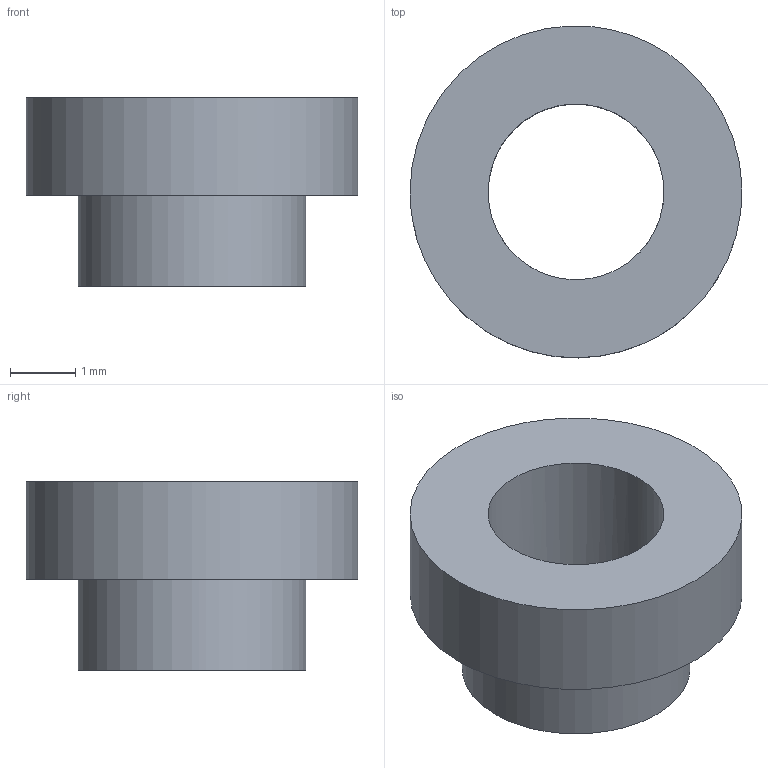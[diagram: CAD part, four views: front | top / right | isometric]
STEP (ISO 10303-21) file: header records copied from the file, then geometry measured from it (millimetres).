
FILE_DESCRIPTION(('FreeCAD Model'),'2;1');
FILE_NAME('Open CASCADE Shape Model','2026-03-20T17:23:02',('Author'),( ''),'Open CASCADE STEP processor 7.8','FreeCAD','Unknown');
FILE_SCHEMA(('AP242_MANAGED_MODEL_BASED_3D_ENGINEERING_MIM_LF. {1 0 10303 442 1 1 4 }'));
Length unit declared in the file: millimetre
Products named in the file (1): 1_transformed
Bounding box: 5.1 x 5.1 x 2.9 mm (x, y, z)
Volume: 27.8 mm3; surface area: 93.6 mm2
Topology: 1 solids, 1 shells, 6 faces, 10 edges, 7 vertices
Faces by surface type: bspline 6
Entity records: 209 total; most frequent: CARTESIAN_POINT 113, ORIENTED_EDGE 20, EDGE_CURVE 10, FACE_BOUND 9, EDGE_LOOP 9, VERTEX_POINT 7, ADVANCED_FACE 6, B_SPLINE_SURFACE_WITH_KNOTS 3
